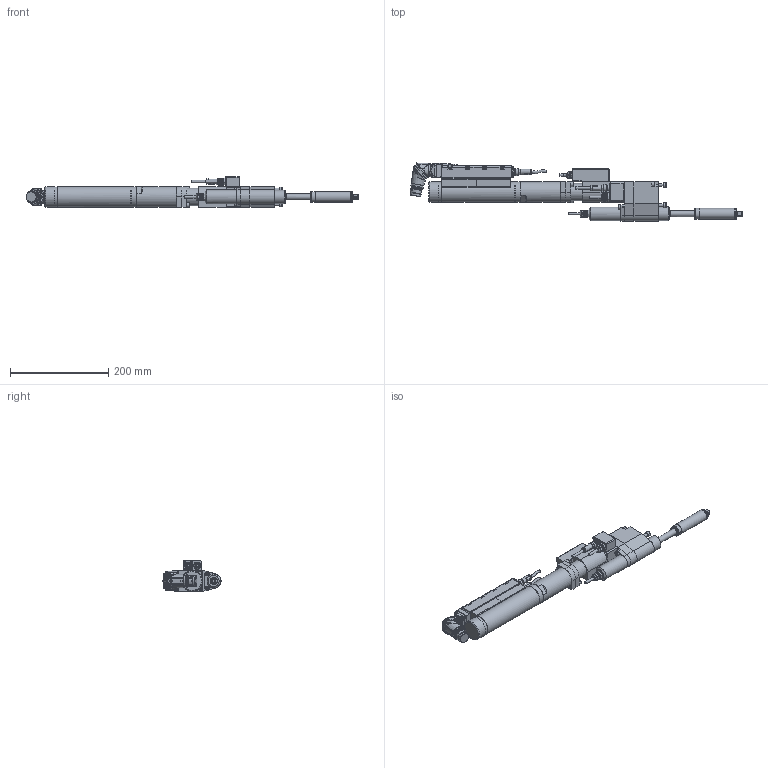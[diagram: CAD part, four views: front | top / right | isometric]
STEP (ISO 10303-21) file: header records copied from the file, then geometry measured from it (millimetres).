
FILE_DESCRIPTION (( 'STEP AP214' ), '1' );
FILE_NAME ('70082498_ESX106DRX65WX1AODX150-65.STEP', '2016-11-15T06:06:50', ( 'admin' ), ( '' ), 'SwSTEP 2.0', 'SolidWorks 2014', '' );
FILE_SCHEMA (( 'AUTOMOTIVE_DESIGN' ));
Length unit declared in the file: millimetre
Products named in the file (12): 70082302; 70082498_ESX106DRX65WX1AODX150-65; 7002230_3; 70082381; 70082360; 70082321; 70082302_ESX106_Standard_Winkel_2_Aufnehmer; 70082293_2; 70057493_Standard_winkel; 70057493_4; 70057493_3; 70057493_2
Assembly tree (12 placements, depth 4):
  70082498_ESX106DRX65WX1AODX150-65
    70082302_ESX106_Standard_Winkel_2_Aufnehmer
      70082302
      70057493_Standard_winkel
        70057493_2
        70057493_3
        70057493_4
      70082293_2  x2
    70082321
    70082360
    70082381
    7002230_3
Bounding box: 675.96 x 118.34 x 62.76 mm (x, y, z)
Volume: 1232255.7 mm3; surface area: 185685.3 mm2
Topology: 14 solids, 41 shells, 3390 faces, 8775 edges, 5669 vertices
Faces by surface type: plane 1662, cylinder 949, cone 422, bspline 271, torus 82, sphere 4
Full cylindrical faces by diameter (mm): 0.5 x14, 0.57 x14, 2 x3, 2.5 x4, 3 x4, 3.5 x1, 4.2 x1, 4.7 x1, 4.9 x6, 5 x13, 5.5 x12, 6 x10, 6.5 x1, 6.6 x4, 8.459 x2, 8.5 x3, 8.8 x1, 10 x9, 11.08 x4, 11.2 x1, 11.43 x1, 12 x1, 12.1 x1, 12.3 x3, 12.5 x2, 14 x6, 14.5 x2, 16 x1, 17.4 x1, 18 x1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
Entity records: 112737 total; most frequent: CARTESIAN_POINT 35332, ORIENTED_EDGE 16036, DIRECTION 14349, EDGE_CURVE 8018, VERTEX_POINT 5345, AXIS2_PLACEMENT_3D 5335, EDGE_LOOP 3793, VECTOR 3679
